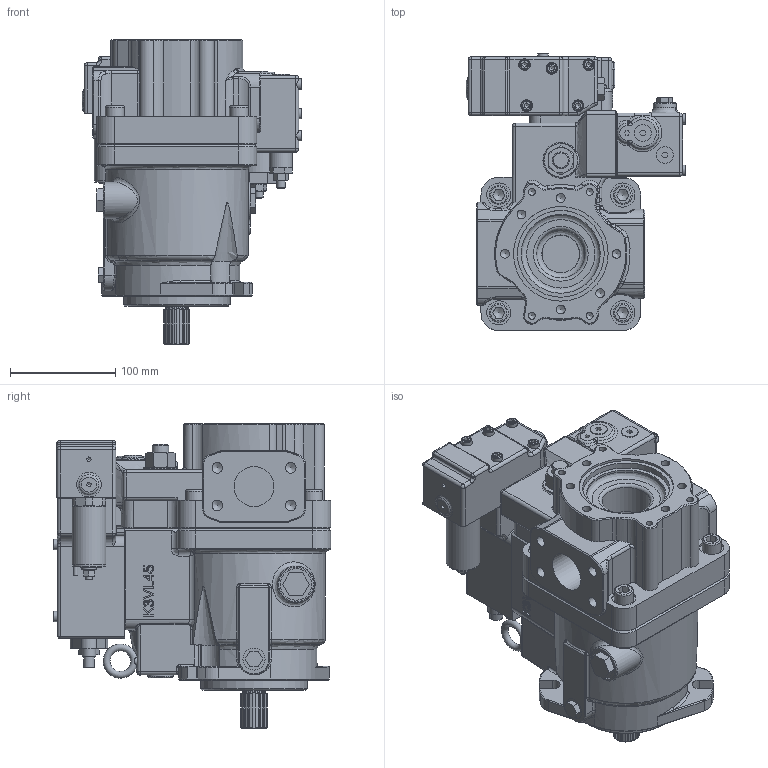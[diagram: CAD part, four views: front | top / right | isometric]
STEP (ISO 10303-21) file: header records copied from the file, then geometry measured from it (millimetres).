
FILE_DESCRIPTION((''),'2;1');
FILE_NAME('I:\Inventor\K3V, M2X\MODEL LIBRARY\K3VL45 B 1ARSM PO 1-EO.stp','2006-06-12T10:57:06',('mnorman'),(''),'Autodesk Inventor 11','Autodesk Inventor 11','');
FILE_SCHEMA(('AUTOMOTIVE_DESIGN { 1 0 10303 214 1 1 1 1 }'));
Length unit declared in the file: millimetre
Products named in the file (1): Part1
Bounding box: 209.1 x 264 x 290 mm (x, y, z)
Volume: 5782224.9 mm3; surface area: 426880.7 mm2
Topology: 1 solids, 44 shells, 1964 faces, 4726 edges, 2895 vertices
Faces by surface type: plane 924, cylinder 401, bspline 341, cone 224, torus 53, sphere 21
Full cylindrical faces by diameter (mm): 6 x14, 6.5 x4, 8 x7, 9 x1, 9.5 x1, 10 x15, 11 x14, 11.4 x2, 12 x4, 12.75 x1, 13 x2, 14 x1, 16 x4, 18 x5, 21 x1, 21.3 x1, 22 x2, 22.804 x1, 24 x2, 25 x3, 30 x4, 31 x1, 32 x2, 35.5 x1, 36 x1, 38 x1, 46 x1, 75 x1, 82.55 x1, 90 x2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
Entity records: 71371 total; most frequent: CARTESIAN_POINT 30266, DIRECTION 8280, ORIENTED_EDGE 8258, EDGE_CURVE 4129, AXIS2_PLACEMENT_3D 3119, VERTEX_POINT 2682, EDGE_LOOP 2431, VECTOR 2042
